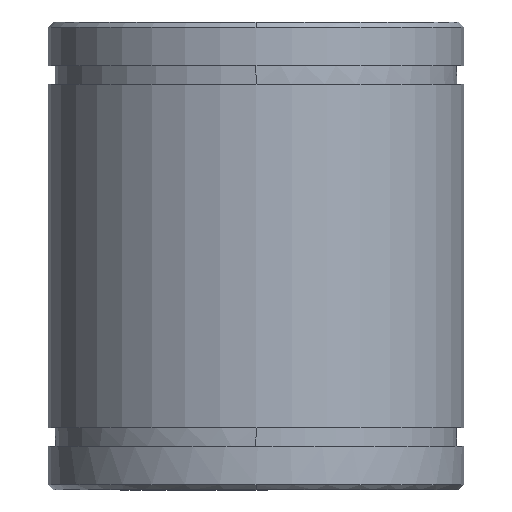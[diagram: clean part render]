
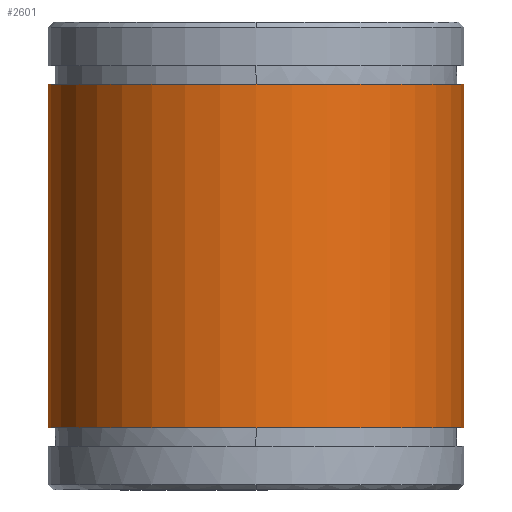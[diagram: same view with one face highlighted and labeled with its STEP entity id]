
A CAD part, front view. The second image highlights one B-rep face of the part: STEP entity #2601.
In plain terms, the highlighted cylindrical face has radius 20 mm (diameter 40 mm), a partial arc.
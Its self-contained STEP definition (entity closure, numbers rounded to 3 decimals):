
#1680=CARTESIAN_POINT('Axis2P3D Location',(0.,0.,39.)) ;
#1684=CARTESIAN_POINT('Vertex',(-20.,0.,39.)) ;
#1686=CARTESIAN_POINT('Vertex',(20.,0.,39.)) ;
#2571=CARTESIAN_POINT('Axis2P3D Location',(0.,0.,-2.25)) ;
#2576=CARTESIAN_POINT('Line Origine',(20.,0.,-2.25)) ;
#2580=CARTESIAN_POINT('Vertex',(20.,0.,6.)) ;
#2583=CARTESIAN_POINT('Line Origine',(-20.,0.,-2.25)) ;
#2587=CARTESIAN_POINT('Vertex',(-20.,0.,6.)) ;
#2590=CARTESIAN_POINT('Axis2P3D Location',(0.,0.,6.)) ;
#1681=DIRECTION('Axis2P3D Direction',(0.,-0.,1.)) ;
#2572=DIRECTION('Axis2P3D Direction',(0.,0.,1.)) ;
#2573=DIRECTION('Axis2P3D XDirection',(-1.,0.,0.)) ;
#2577=DIRECTION('Vector Direction',(0.,0.,1.)) ;
#2584=DIRECTION('Vector Direction',(0.,0.,1.)) ;
#2591=DIRECTION('Axis2P3D Direction',(0.,0.,1.)) ;
#1682=AXIS2_PLACEMENT_3D('Circle Axis2P3D',#1680,#1681,$) ;
#2574=AXIS2_PLACEMENT_3D('Cylinder Axis2P3D',#2571,#2572,#2573) ;
#2592=AXIS2_PLACEMENT_3D('Circle Axis2P3D',#2590,#2591,$) ;
#2596=ORIENTED_EDGE('',*,*,#2582,.F.) ;
#2597=ORIENTED_EDGE('',*,*,#1688,.F.) ;
#2598=ORIENTED_EDGE('',*,*,#2589,.T.) ;
#2599=ORIENTED_EDGE('',*,*,#2594,.F.) ;
#2578=VECTOR('Line Direction',#2577,1.) ;
#2585=VECTOR('Line Direction',#2584,1.) ;
#2601=ADVANCED_FACE('MANIFOLD_SOLID_BREP #2424',(#2600),#2575,.T.) ;
#1683=CIRCLE('generated circle',#1682,20.) ;
#2593=CIRCLE('generated circle',#2592,20.) ;
#2575=CYLINDRICAL_SURFACE('generated cylinder',#2574,20.) ;
#1688=EDGE_CURVE('',#1685,#1687,#1683,.T.) ;
#2582=EDGE_CURVE('',#1687,#2581,#2579,.F.) ;
#2589=EDGE_CURVE('',#1685,#2588,#2586,.F.) ;
#2594=EDGE_CURVE('',#2581,#2588,#2593,.F.) ;
#2595=EDGE_LOOP('',(#2596,#2597,#2598,#2599)) ;
#2600=FACE_OUTER_BOUND('',#2595,.T.) ;
#2579=LINE('Line',#2576,#2578) ;
#2586=LINE('Line',#2583,#2585) ;
#1685=VERTEX_POINT('',#1684) ;
#1687=VERTEX_POINT('',#1686) ;
#2581=VERTEX_POINT('',#2580) ;
#2588=VERTEX_POINT('',#2587) ;
